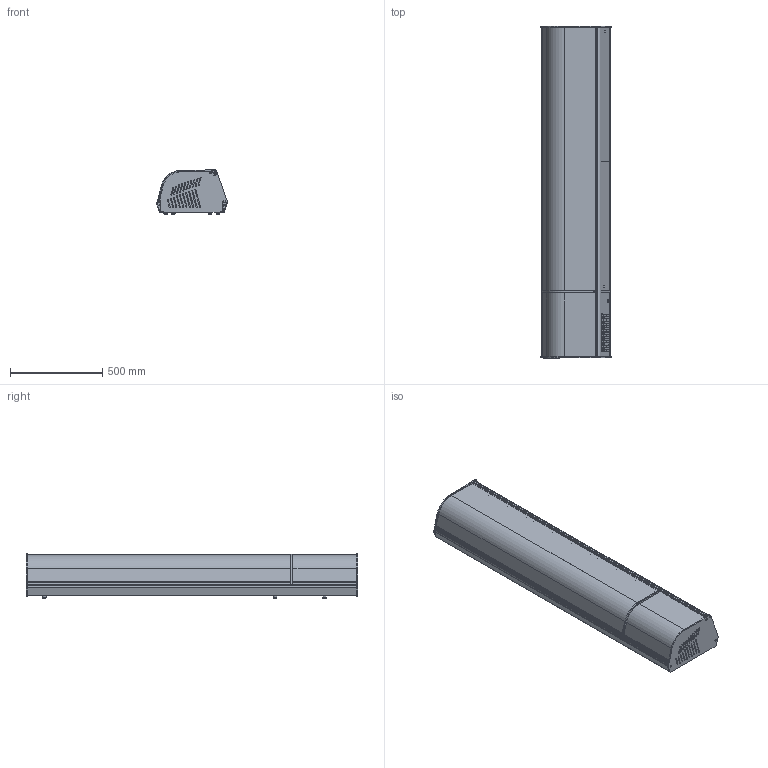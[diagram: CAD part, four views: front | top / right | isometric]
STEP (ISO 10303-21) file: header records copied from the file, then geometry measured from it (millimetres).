
FILE_DESCRIPTION(/* description */ ('Unknown'),/* implementation_level */ '2;1');
FILE_NAME(/* name */ 'vitrina frigorifica 8B_V1',/* time_stamp */ '2018-04-24T12:58:00+02:00',/* author */ ('Unknown'),/* organization */ ('Unknown'),/* preprocessor_version */ 'ST-DEVELOPER v16.7',/* originating_system */ 'DEX',/* authorisation */ $);
FILE_SCHEMA (('CONFIG_CONTROL_DESIGN'));
Length unit declared in the file: millimetre
Products named in the file (17): vitrina frigorifica 8B_V1; 46-1+8B+V1_oa_0; 46-5; 46-1+8B+V1_oa_1; 46-36; 46-38; 46-3+uc; 46-3+8B; 46-9+6701; 46-15+8B_v1; 46-11_v1; 46-12+6702; 46-23+8B_SIMPLE_V1; 46-18+8B_v2; 46-51+U_C._oa_2; 46-25+6705; 46-40
Assembly tree (22 placements, depth 3):
  vitrina frigorifica 8B_V1
    46-1+8B+V1_oa_0
    46-5
    46-1+8B+V1_oa_1
    46-36
    46-38
    46-3+uc
    46-3+8B
    46-9+6701
    46-15+8B_v1
    46-11_v1
    46-12+6702
    46-23+8B_SIMPLE_V1  x2
    46-18+8B_v2
    46-51+U_C._oa_2
      46-25+6705
    46-40  x6
Bounding box: 383.15 x 1797 x 241.45 mm (x, y, z)
Volume: 7529551.7 mm3; surface area: 5892906.5 mm2
Topology: 21 solids, 21 shells, 1295 faces, 3687 edges, 2439 vertices
Faces by surface type: plane 973, cylinder 287, cone 17, bspline 12, torus 6
Full cylindrical faces by diameter (mm): 3 x4, 3.5 x2, 5 x4, 5.5 x4, 6 x9, 8 x19, 16.5 x1, 30 x2
Entity records: 42429 total; most frequent: CARTESIAN_POINT 7535, ORIENTED_EDGE 7110, DIRECTION 6619, EDGE_CURVE 3555, LINE 2963, VECTOR 2963, VERTEX_POINT 2380, AXIS2_PLACEMENT_3D 1828
